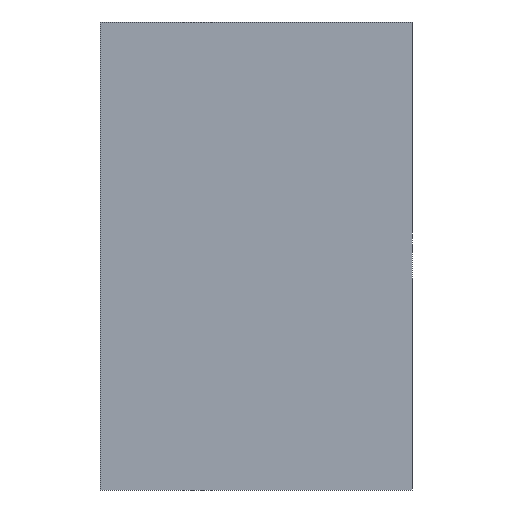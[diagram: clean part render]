
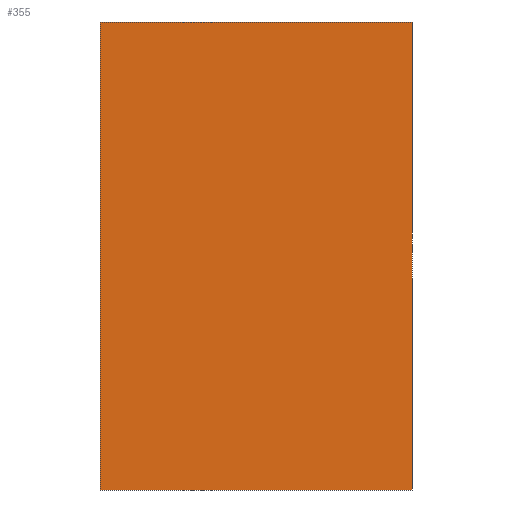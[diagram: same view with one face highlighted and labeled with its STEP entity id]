
A CAD part, front view. The second image highlights one B-rep face of the part: STEP entity #355.
In plain terms, the highlighted planar face has unit normal (0, -1, 0).
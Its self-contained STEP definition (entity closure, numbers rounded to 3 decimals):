
#27=FACE_OUTER_BOUND('',#45,.T.);
#45=EDGE_LOOP('',(#271,#272,#273,#274));
#87=LINE('',#551,#135);
#88=LINE('',#553,#136);
#89=LINE('',#555,#137);
#90=LINE('',#556,#138);
#135=VECTOR('',#451,10.);
#136=VECTOR('',#452,10.);
#137=VECTOR('',#453,10.);
#138=VECTOR('',#454,10.);
#175=VERTEX_POINT('',#549);
#176=VERTEX_POINT('',#550);
#177=VERTEX_POINT('',#552);
#178=VERTEX_POINT('',#554);
#215=EDGE_CURVE('',#175,#176,#87,.T.);
#216=EDGE_CURVE('',#176,#177,#88,.T.);
#217=EDGE_CURVE('',#178,#177,#89,.T.);
#218=EDGE_CURVE('',#175,#178,#90,.T.);
#271=ORIENTED_EDGE('',*,*,#215,.T.);
#272=ORIENTED_EDGE('',*,*,#216,.T.);
#273=ORIENTED_EDGE('',*,*,#217,.F.);
#274=ORIENTED_EDGE('',*,*,#218,.F.);
#337=PLANE('',#387);
#355=ADVANCED_FACE('',(#27),#337,.T.);
#387=AXIS2_PLACEMENT_3D('',#548,#449,#450);
#449=DIRECTION('center_axis',(0.,-1.,0.));
#450=DIRECTION('ref_axis',(0.,0.,-1.));
#451=DIRECTION('',(0.,0.,-1.));
#452=DIRECTION('',(1.,0.,0.));
#453=DIRECTION('',(0.,0.,-1.));
#454=DIRECTION('',(1.,0.,0.));
#548=CARTESIAN_POINT('Origin',(0.,-35.,15.));
#549=CARTESIAN_POINT('',(0.,-35.,15.));
#550=CARTESIAN_POINT('',(0.,-35.,-15.));
#551=CARTESIAN_POINT('',(0.,-35.,15.));
#552=CARTESIAN_POINT('',(20.,-35.,-15.));
#553=CARTESIAN_POINT('',(0.,-35.,-15.));
#554=CARTESIAN_POINT('',(20.,-35.,15.));
#555=CARTESIAN_POINT('',(20.,-35.,15.));
#556=CARTESIAN_POINT('',(0.,-35.,15.));
